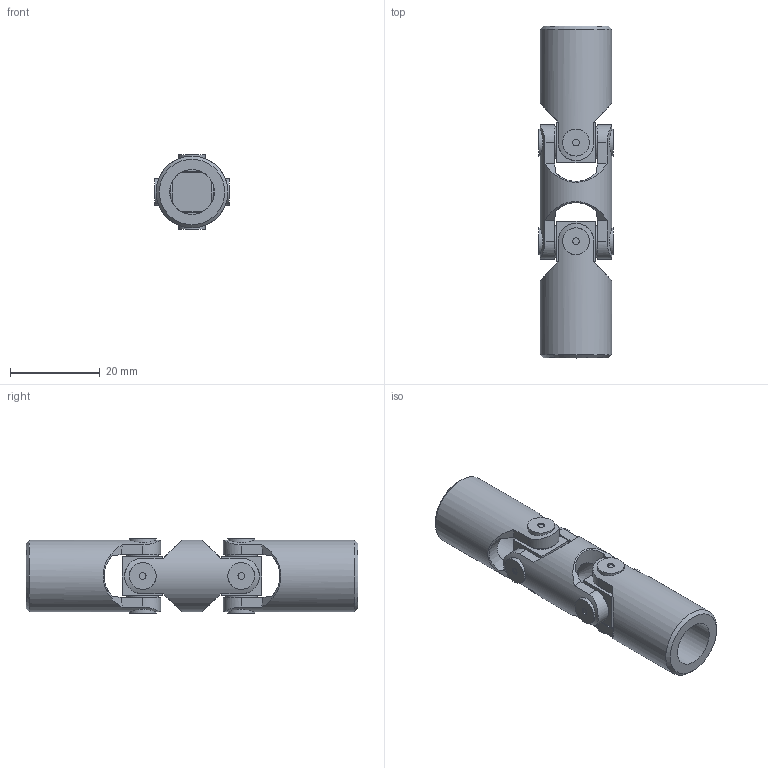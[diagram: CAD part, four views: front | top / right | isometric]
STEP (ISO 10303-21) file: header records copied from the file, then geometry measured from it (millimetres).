
FILE_DESCRIPTION(/* description */ (''),/* implementation_level */ '2;1');
FILE_NAME(/* name */ '\\SRV2016\Societa\Stefano\Disegni 3D\00Catalogo 3D\02Doppi GD-GBD\SGBD1000.stp',/* time_stamp */ '2021-11-22T16:58:32+01:00',/* author */ ('acquisti'),/* organization */ (''),/* preprocessor_version */ 'ST-DEVELOPER v15.6',/* originating_system */ 'Autodesk Inventor 2015',/* authorisation */ '');
FILE_SCHEMA (('AUTOMOTIVE_DESIGN { 1 0 10303 214 3 1 1 }'));
Length unit declared in the file: millimetre
Products named in the file (4): 01G MOD; 01-02G SFE; 03GB MOS; Ø16_03GBD-00_SGBD1000
Assembly tree (5 placements, depth 2):
  Ø16_03GBD-00_SGBD1000
    01G MOD
    01-02G SFE  x2
    03GB MOS  x2
Bounding box: 16.7 x 74 x 16.7 mm (x, y, z)
Volume: 9174.7 mm3; surface area: 7092.1 mm2
Topology: 5 solids, 5 shells, 139 faces, 353 edges, 242 vertices
Faces by surface type: plane 74, cylinder 39, cone 20, torus 6
Full cylindrical faces by diameter (mm): 1.5 x8, 6 x8, 7 x8, 8.5 x2, 10 x2, 16 x3
Entity records: 3262 total; most frequent: CARTESIAN_POINT 1142, DIRECTION 406, ORIENTED_EDGE 404, EDGE_CURVE 202, AXIS2_PLACEMENT_3D 176, VERTEX_POINT 152, EDGE_LOOP 138, FACE_OUTER_BOUND 95
